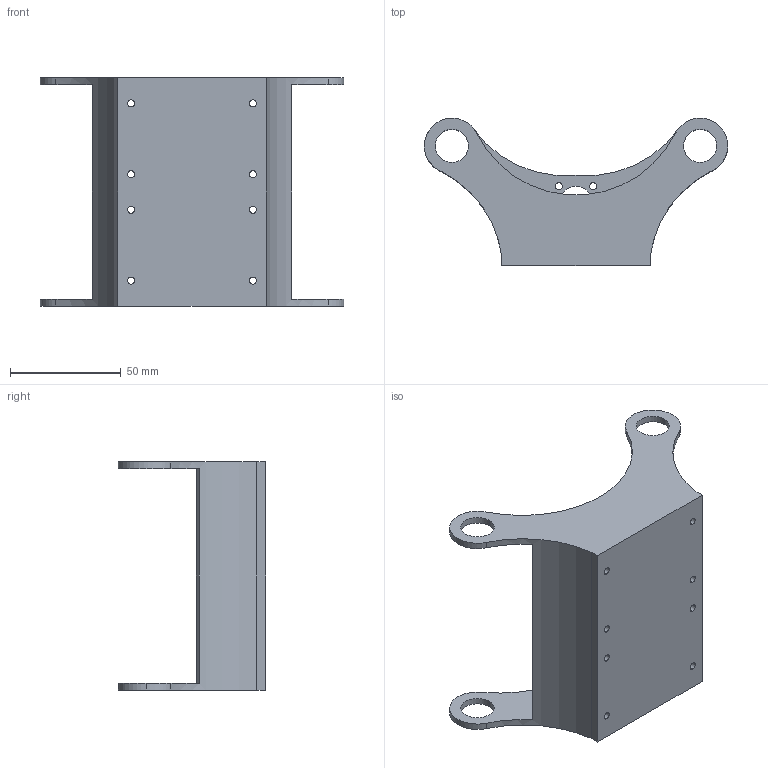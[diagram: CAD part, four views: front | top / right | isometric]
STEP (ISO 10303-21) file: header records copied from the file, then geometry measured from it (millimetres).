
FILE_DESCRIPTION (( 'STEP AP203' ), '1' );
FILE_NAME ('inner_casing.STEP', '2019-07-18T16:11:28', ( '' ), ( '' ), 'SwSTEP 2.0', 'SolidWorks 2017', '' );
FILE_SCHEMA (( 'CONFIG_CONTROL_DESIGN' ));
Length unit declared in the file: millimetre
Products named in the file (1): inner_casing
Bounding box: 137 x 66.48 x 103 mm (x, y, z)
Volume: 61620.8 mm3; surface area: 44064.9 mm2
Topology: 1 solids, 1 shells, 64 faces, 186 edges, 124 vertices
Faces by surface type: cylinder 52, plane 12
Entity records: 2331 total; most frequent: DIRECTION 424, CARTESIAN_POINT 375, ORIENTED_EDGE 372, EDGE_CURVE 186, AXIS2_PLACEMENT_3D 173, VERTEX_POINT 124, CIRCLE 108, EDGE_LOOP 102
